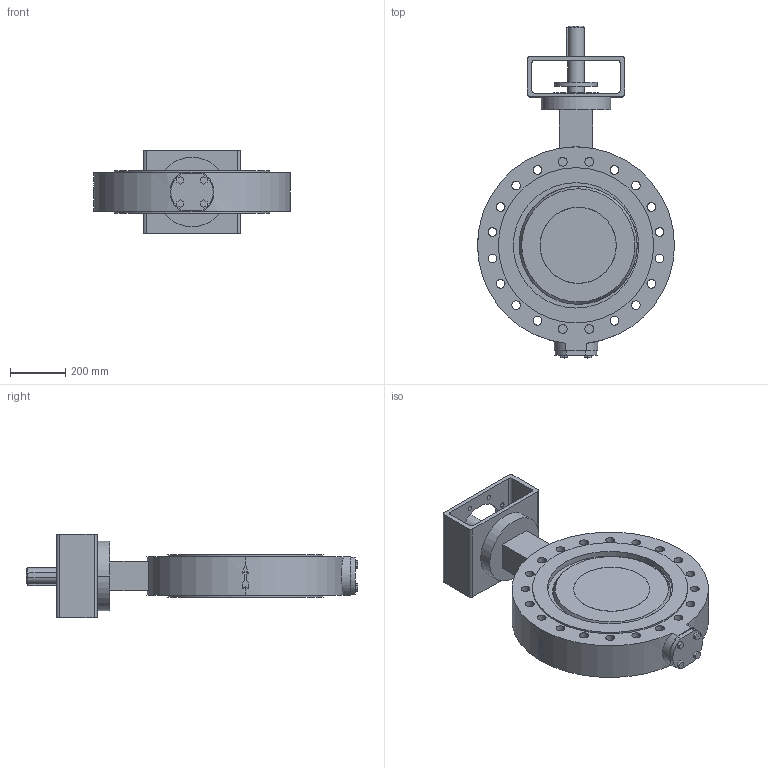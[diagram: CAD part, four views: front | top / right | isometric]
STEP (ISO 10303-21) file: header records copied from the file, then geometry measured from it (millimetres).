
FILE_DESCRIPTION( ( '' ), '1' );
FILE_NAME( 'F:/DE-SHS/TB/OR/04-Sonstiges/daten/files_3d/018_ZETRIX-PN10_freiesWellende/c000006387.stp', '2016-09-01T11:06:09', ( '' ), ( '' ), ' ', ' ', ' ' );
FILE_SCHEMA( ( 'CONFIG_CONTROL_DESIGN' ) );
Length unit declared in the file: millimetre
Products named in the file (1): 1
Bounding box: 710 x 1197 x 300 mm (x, y, z)
Volume: 54154467.2 mm3; surface area: 2430902.7 mm2
Topology: 1 solids, 1 shells, 237 faces, 616 edges, 411 vertices
Faces by surface type: cylinder 131, plane 98, sphere 4, cone 4
Entity records: 8351 total; most frequent: CARTESIAN_POINT 2141, DIRECTION 1339, ORIENTED_EDGE 1232, EDGE_CURVE 616, AXIS2_PLACEMENT_3D 515, VERTEX_POINT 411, EDGE_LOOP 325, LINE 309
